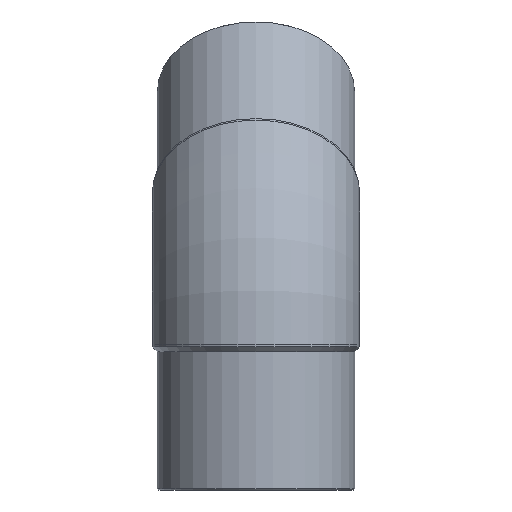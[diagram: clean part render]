
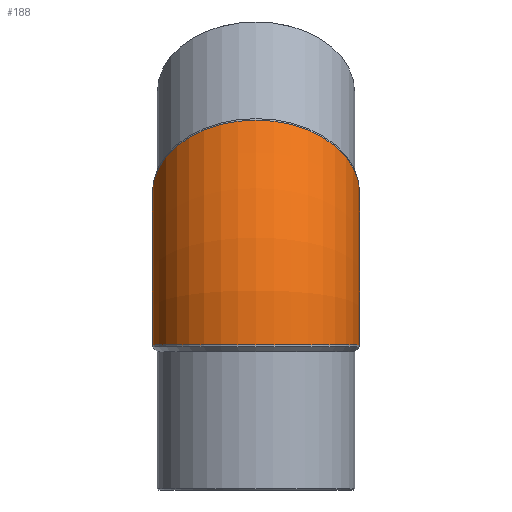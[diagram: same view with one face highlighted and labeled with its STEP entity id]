
A CAD part, left-side view. The second image highlights one B-rep face of the part: STEP entity #188.
In plain terms, the highlighted toroidal (fillet/blend) face has major radius 152.095 mm and minor radius 73.5 mm.
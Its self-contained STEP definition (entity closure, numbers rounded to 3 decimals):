
#20=TOROIDAL_SURFACE('',#225,152.095,73.5);
#53=ORIENTED_EDGE('',*,*,#87,.T.);
#54=ORIENTED_EDGE('',*,*,#86,.F.);
#86=EDGE_CURVE('',#104,#104,#118,.F.);
#87=EDGE_CURVE('',#105,#105,#119,.F.);
#104=VERTEX_POINT('',#349);
#105=VERTEX_POINT('',#352);
#118=CIRCLE('',#224,73.5);
#119=CIRCLE('',#226,73.5);
#136=EDGE_LOOP('',(#53));
#137=EDGE_LOOP('',(#54));
#163=FACE_BOUND('',#136,.T.);
#164=FACE_BOUND('',#137,.T.);
#188=ADVANCED_FACE('',(#163,#164),#20,.T.);
#224=AXIS2_PLACEMENT_3D('',#348,#270,#271);
#225=AXIS2_PLACEMENT_3D('',#350,#272,#273);
#226=AXIS2_PLACEMENT_3D('',#351,#274,#275);
#270=DIRECTION('',(-0.707,0.,-0.707));
#271=DIRECTION('',(0.707,0.,-0.707));
#272=DIRECTION('',(0.,1.,0.));
#273=DIRECTION('',(0.,0.,1.));
#274=DIRECTION('',(0.,0.,-1.));
#275=DIRECTION('',(1.,0.,0.));
#348=CARTESIAN_POINT('',(44.548,0.,44.548));
#349=CARTESIAN_POINT('',(96.52,0.,-7.425));
#350=CARTESIAN_POINT('',(152.095,0.,-63.));
#351=CARTESIAN_POINT('',(0.,0.,-63.));
#352=CARTESIAN_POINT('',(73.5,0.,-63.));
